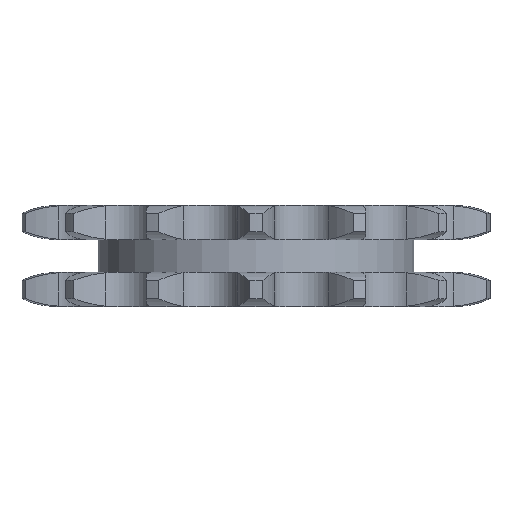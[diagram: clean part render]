
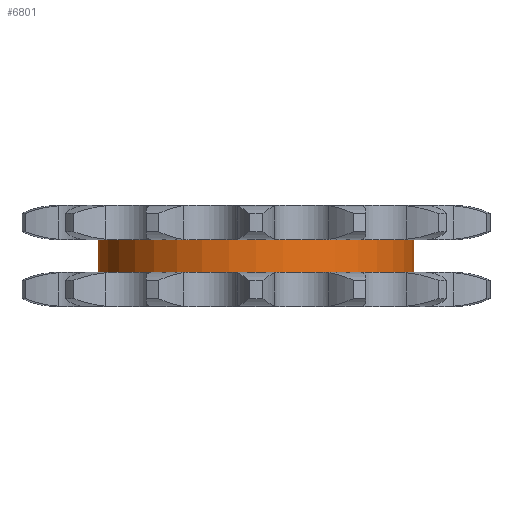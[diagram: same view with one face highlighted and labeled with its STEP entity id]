
A CAD part, left-side view. The second image highlights one B-rep face of the part: STEP entity #6801.
In plain terms, the highlighted cylindrical face has radius 12.976 mm (diameter 25.952 mm), a partial arc.
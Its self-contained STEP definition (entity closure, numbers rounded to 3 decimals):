
#1016=CARTESIAN_POINT('',(0.,0.,-1.35));
#1017=DIRECTION('',(0.,0.,1.));
#1018=DIRECTION('',(0.,1.,0.));
#1019=AXIS2_PLACEMENT_3D('',#1016,#1017,#1018);
#1144=DIRECTION('',(0.,0.,-1.));
#1145=VECTOR('',#1144,2.7);
#1146=CARTESIAN_POINT('',(0.,12.976,1.35));
#1147=LINE('',#1146,#1145);
#1151=CARTESIAN_POINT('',(0.,0.,1.35));
#1152=DIRECTION('',(0.,0.,1.));
#1153=DIRECTION('',(0.,1.,0.));
#1154=AXIS2_PLACEMENT_3D('',#1151,#1152,#1153);
#1159=DIRECTION('',(0.,0.,-1.));
#1160=VECTOR('',#1159,2.7);
#1161=CARTESIAN_POINT('',(0.,-12.976,1.35));
#1162=LINE('',#1161,#1160);
#5157=CARTESIAN_POINT('',(0.,12.976,1.35));
#5158=CARTESIAN_POINT('',(0.,12.976,-1.35));
#5159=VERTEX_POINT('',#5157);
#5160=VERTEX_POINT('',#5158);
#5161=CARTESIAN_POINT('',(0.,-12.976,1.35));
#5162=CARTESIAN_POINT('',(0.,-12.976,-1.35));
#5163=VERTEX_POINT('',#5161);
#5164=VERTEX_POINT('',#5162);
#6787=CARTESIAN_POINT('',(0.,0.,1.485));
#6788=DIRECTION('',(0.,0.,-1.));
#6789=DIRECTION('',(0.,-1.,0.));
#6790=AXIS2_PLACEMENT_3D('',#6787,#6788,#6789);
#6791=CYLINDRICAL_SURFACE('',#6790,12.976);
#6793=ORIENTED_EDGE('',*,*,#6792,.F.);
#6795=ORIENTED_EDGE('',*,*,#6794,.T.);
#6797=ORIENTED_EDGE('',*,*,#6796,.T.);
#6798=ORIENTED_EDGE('',*,*,#6780,.F.);
#6799=EDGE_LOOP('',(#6793,#6795,#6797,#6798));
#6800=FACE_OUTER_BOUND('',#6799,.F.);
#6801=ADVANCED_FACE('',(#6800),#6791,.T.);
#1020=CIRCLE('',#1019,12.976);
#1155=CIRCLE('',#1154,12.976);
#6780=EDGE_CURVE('',#5160,#5164,#1020,.T.);
#6792=EDGE_CURVE('',#5159,#5160,#1147,.T.);
#6794=EDGE_CURVE('',#5159,#5163,#1155,.T.);
#6796=EDGE_CURVE('',#5163,#5164,#1162,.T.);
